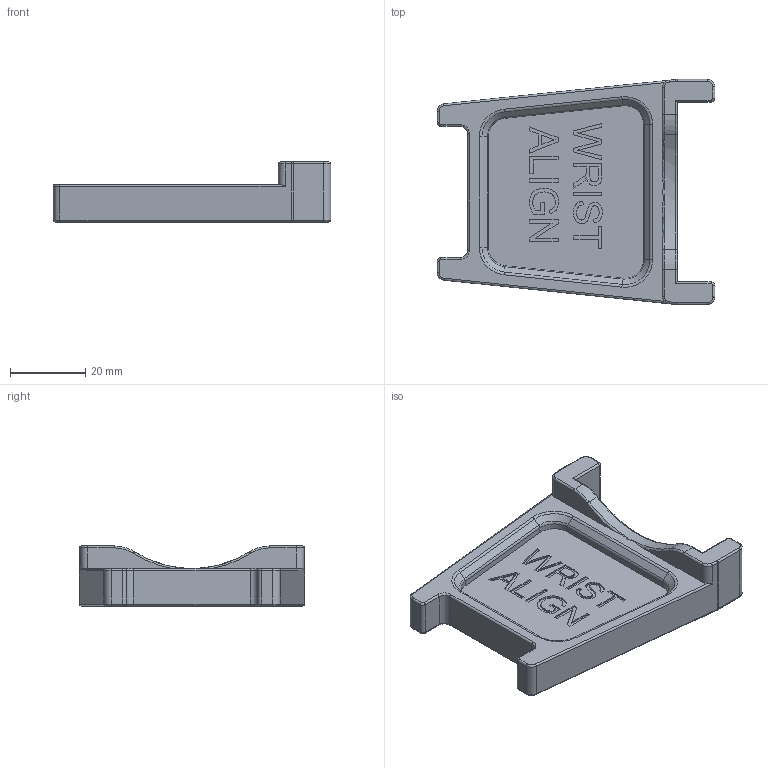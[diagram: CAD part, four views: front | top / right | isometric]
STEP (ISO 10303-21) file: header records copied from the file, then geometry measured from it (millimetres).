
FILE_DESCRIPTION(/* description */ ('','CAx-IF Rec.Pracs.---Representation and Presentation of Product Manufacturing Information (PMI)---4.0---2014-10-13'),/* implementation_level */ '2;1');
FILE_NAME(/* name */ '103107059_01.step',/* time_stamp */ '2025-02-05T13:58:34-06:00',/* author */ (''),/* organization */ (''),/* preprocessor_version */ 'ST-DEVELOPER v20',/* originating_system */ 'Autodesk Translation Framework v13.20.0.188',/* authorisation */ '');
FILE_SCHEMA (('AP242_MANAGED_MODEL_BASED_3D_ENGINEERING_MIM_LF { 1 0 10303 442 1 1 4 }'));
Length unit declared in the file: millimetre
Products named in the file (1): FusionComponent
Bounding box: 74 x 60 x 16 mm (x, y, z)
Volume: 26588.1 mm3; surface area: 10493.8 mm2
Topology: 1 solids, 1 shells, 304 faces, 781 edges, 492 vertices
Faces by surface type: plane 116, bspline 89, cylinder 62, torus 33, cone 4
Entity records: 10094 total; most frequent: CARTESIAN_POINT 3163, ORIENTED_EDGE 1562, DIRECTION 1214, EDGE_CURVE 781, VERTEX_POINT 492, LINE 446, VECTOR 446, AXIS2_PLACEMENT_3D 384
